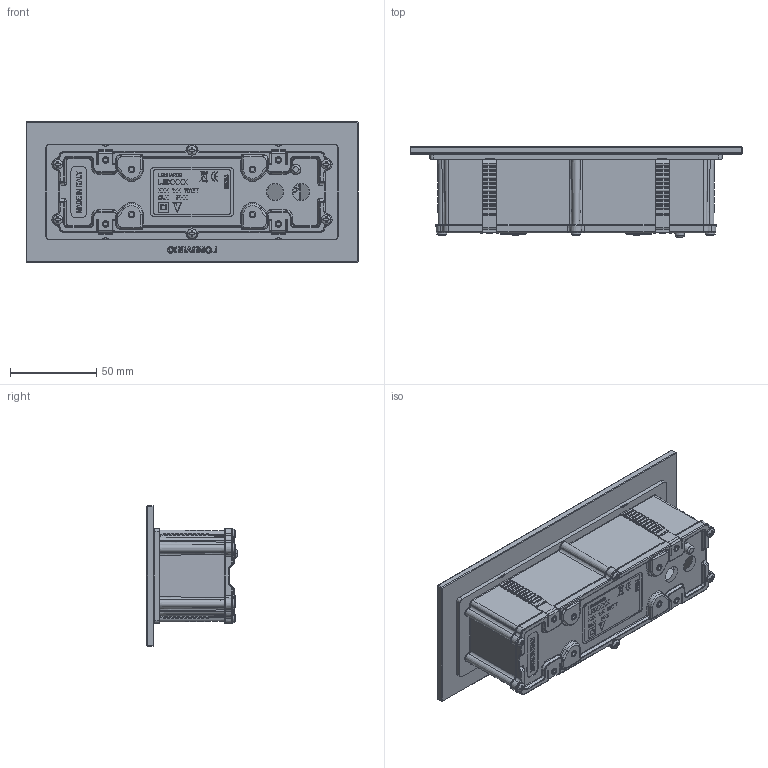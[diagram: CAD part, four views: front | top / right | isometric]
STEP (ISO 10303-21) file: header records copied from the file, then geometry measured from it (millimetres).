
FILE_DESCRIPTION((''),'2;1');
FILE_NAME('ASIMMETRIVO_ORIZZONTA_SW0001','2025-07-29T11:47:56',('Piccioli'),(''),'CREO PARAMETRIC BY PTC INC, 2025010','CREO PARAMETRIC BY PTC INC, 2025010','');
FILE_SCHEMA(('CONFIG_CONTROL_DESIGN'));
Products named in the file (1): ASIMMETRIVO_ORIZZONTA_SW0001
Bounding box: 192 x 52.1 x 81 mm (x, y, z)
Surface area: 115608.7 mm2 (no closed solid volume)
Topology: 0 solids, 83 shells, 1660 faces, 6329 edges, 4613 vertices
Faces by surface type: plane 771, cylinder 452, torus 138, cone 122, bspline 96, sphere 74, extrusion 7
Entity records: 79728 total; most frequent: CARTESIAN_POINT 27665, DIRECTION 10492, ORIENTED_EDGE 10108, EDGE_CURVE 6325, VERTEX_POINT 4613, VECTOR 4054, LINE 4047, AXIS2_PLACEMENT_3D 3219
